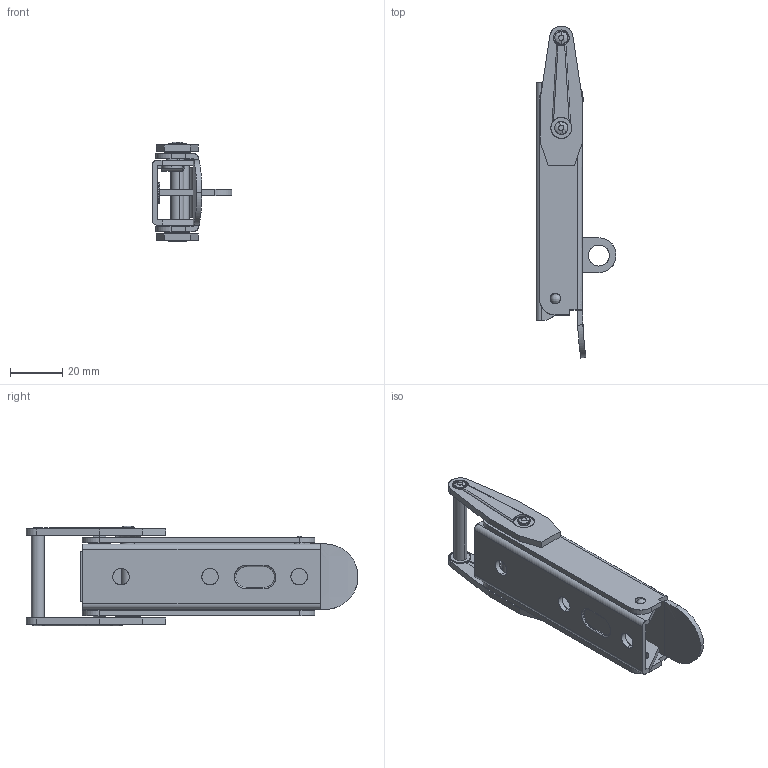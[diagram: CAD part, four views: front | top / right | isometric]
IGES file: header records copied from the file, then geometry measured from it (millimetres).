
Start section: SolidWorks IGES FILE using analytic representation for surfaces
Global section: file name: C:\Documents and Settings\lecoutey\Bureau\GO 74\GO 74.IGS; native system: SolidWorks 2004 by SolidWorks Corporation; preprocessor: Version 5.3; author: lecoutey; date: 050329.115827; units: millimetre
Bounding box: 30.5 x 126.7 x 38 mm (x, y, z)
Surface area: 27637.5 mm2 (no closed solid volume)
Topology: 0 solids, 0 shells, 293 faces, 4972 edges, 4971 vertices
Faces by surface type: bspline 156, revolution 137
